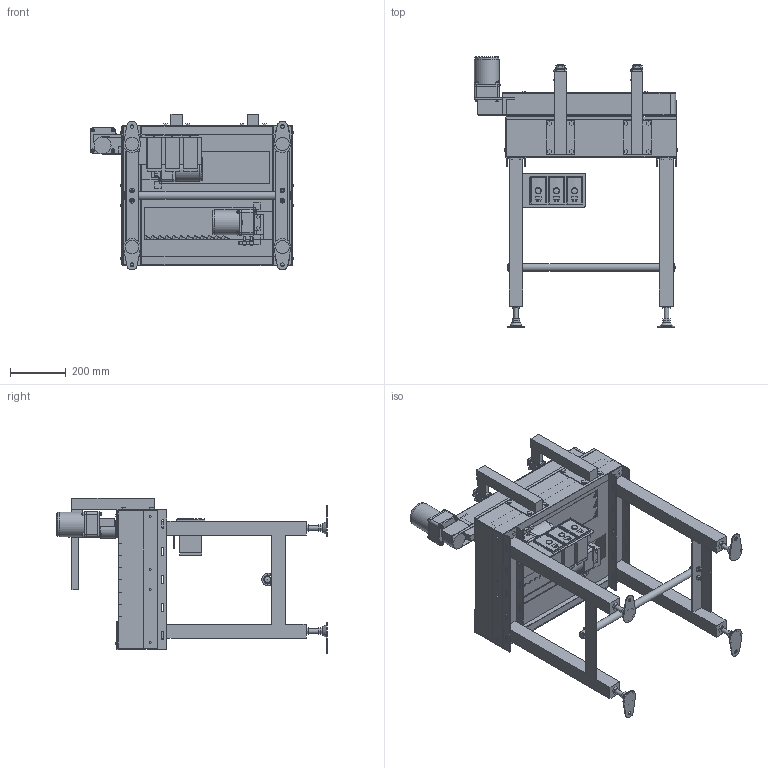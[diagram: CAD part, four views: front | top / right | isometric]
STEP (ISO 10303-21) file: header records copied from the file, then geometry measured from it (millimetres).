
FILE_DESCRIPTION (( 'STEP AP214' ), '1' );
FILE_NAME ('SGA-300-L-D.STEP', '2022-04-12T01:45:27', ( '' ), ( '' ), 'SwSTEP 2.0', 'SolidWorks 2017', '' );
FILE_SCHEMA (( 'AUTOMOTIVE_DESIGN' ));
Length unit declared in the file: millimetre
Products named in the file (18): SWD-UBM540-403-E2+5GN3-18K; SK-34-WH; SWD-UBM540-403-E2+5GN3-18K_t4; SWD-SGA-S-ﾃｰｸｱｯﾌﾟ(勝手違い); SWD-SGA-S-徊霓娃詭x帩; SWD-SGA-衛動葀杺_590; SWD-SGA-S-脚_300幅; SWD-SGA-S-原動ｶﾊﾞｰ(勝手違い); SWD-SGA-S-ｻｲﾄﾞﾍﾞﾔ(勝手違い)_300出口側飛出し; SWD-SGA-S-狠嫩白(彑庤堘偄); SGA-300-L-D; SWD-SGA-S-ｺﾝﾄﾛｰﾗﾌﾞﾗｹｯﾄ(勝手違い); SWD-AJ-020(75mm); SWD-U-010 Assy_固定板t6; SWD-SGA-S-ﾛｰﾗ部(勝手違い)_300幅; SWD-SGA-S-原動部(勝手違い); VFD001L21A_WEB図; SWD-SGA-S-ﾍﾞｰｽﾌﾚｰﾑ(勝手違い)_300幅
Assembly tree (27 placements, depth 3):
  SGA-300-L-D
    SWD-SGA-S-ﾍﾞｰｽﾌﾚｰﾑ(勝手違い)_300幅
    SWD-SGA-S-ﾛｰﾗ部(勝手違い)_300幅
    SWD-SGA-S-脚_300幅  x2
    SWD-AJ-020(75mm)  x4
    SWD-U-010 Assy_固定板t6  x2
    SWD-SGA-衛動葀杺_590
    SWD-SGA-S-原動部(勝手違い)  x2
      SWD-UBM540-403-E2+5GN3-18K_t4
      SWD-SGA-S-原動ｶﾊﾞｰ(勝手違い)
      SWD-SGA-S-ﾃｰｸｱｯﾌﾟ(勝手違い)
    SWD-SGA-S-狠嫩白(彑庤堘偄)
      SWD-SGA-S-ｺﾝﾄﾛｰﾗﾌﾞﾗｹｯﾄ(勝手違い)
      VFD001L21A_WEB図  x3
    SWD-SGA-S-徊霓娃詭x帩  x2
    SK-34-WH  x2
    SWD-SGA-S-ｻｲﾄﾞﾍﾞﾔ(勝手違い)_300出口側飛出し
    SWD-UBM540-403-E2+5GN3-18K
Bounding box: 730.8 x 969.4 x 560 mm (x, y, z)
Volume: 20165167.3 mm3; surface area: 4212765.1 mm2
Topology: 81 solids, 82 shells, 2566 faces, 6349 edges, 4101 vertices
Faces by surface type: plane 1759, cylinder 525, cone 161, bspline 64, torus 34, sphere 23
Full cylindrical faces by diameter (mm): 2 x3, 4.5 x6, 5 x14, 5.5 x3, 6 x34, 6.5 x24, 6.6 x12, 7 x4, 8 x10, 8.49 x3, 9 x8, 10 x12, 10.5 x1, 11.5 x2, 12 x3, 12.2 x2, 12.5 x12, 13 x4, 16 x10, 17 x4, 20 x1, 22 x1, 27.2 x1, 28 x2, 36 x3, 40 x4, 50 x2, 83 x3, 84 x3, 86.3 x3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
Entity records: 56567 total; most frequent: CARTESIAN_POINT 10215, ORIENTED_EDGE 7882, DIRECTION 7834, EDGE_CURVE 3941, LINE 2978, VECTOR 2978, VERTEX_POINT 2671, AXIS2_PLACEMENT_3D 2428
